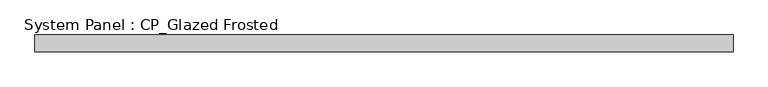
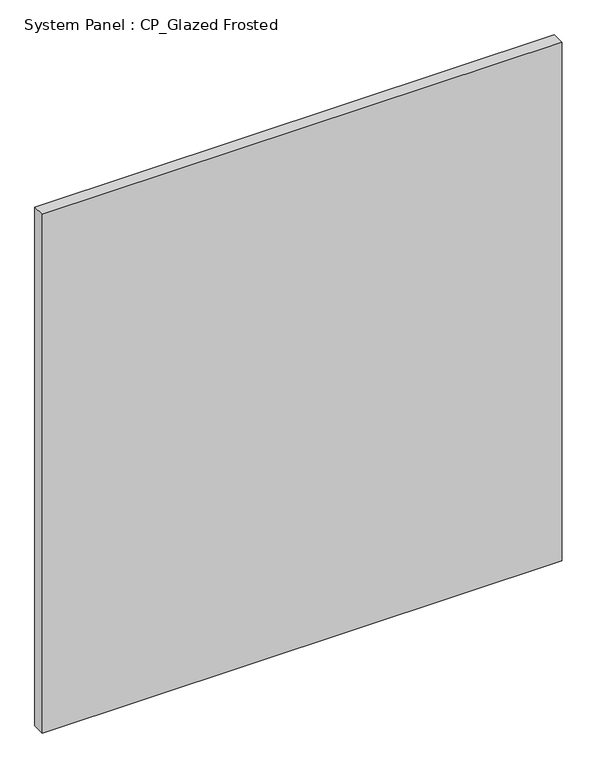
"""IFC4 building model written with IfcOpenShell, lengths in millimetres: plate geometry, System Panel : CP_Glazed Frosted."""

from ifc_helpers import new_model, si_unit, origin, origin_with_axes, place, context, project, spatial, polyline, outline, extrude, source, transform, mapped, element, save


def system_panel_cp_glazed_frosted_6f1bbdd1(model_context):
    return source(origin(), model_context, "Body", "SweptSolid", [
        extrude(outline(polyline([(523.875, 19.05), (-523.875, 19.05), (-523.875, 44.45), (523.875, 44.45), (523.875, 19.05)])), origin_with_axes(), (0.0, 0.0, 1.0), 1104.9),
    ])


if __name__ == "__main__":
    model = new_model("IFC4")
    model_context = context("Model", 3, world=origin())
    ifc_project = project(units=[si_unit("LENGTHUNIT", "METRE", prefix="MILLI")], contexts=[model_context])
    site = spatial("IfcSite", under=ifc_project)
    building = spatial("IfcBuilding", under=site)
    placement = place(None, origin())
    system_panel_cp_glazed_frosted_shape = system_panel_cp_glazed_frosted_6f1bbdd1(model_context)
    element("IfcPlate", 1, ObjectType="System Panel : CP_Glazed Frosted", at=placement, inside=building, context=model_context, shape_type="MappedRepresentation", body=[
        mapped(system_panel_cp_glazed_frosted_shape, transform((0.0, 0.0, 0.0), x_axis=(1.0, 0.0, 0.0), y_axis=(0.0, 1.0, 0.0), z_axis=(0.0, 0.0, 1.0))),
    ])
    save(model, "model.ifc")
